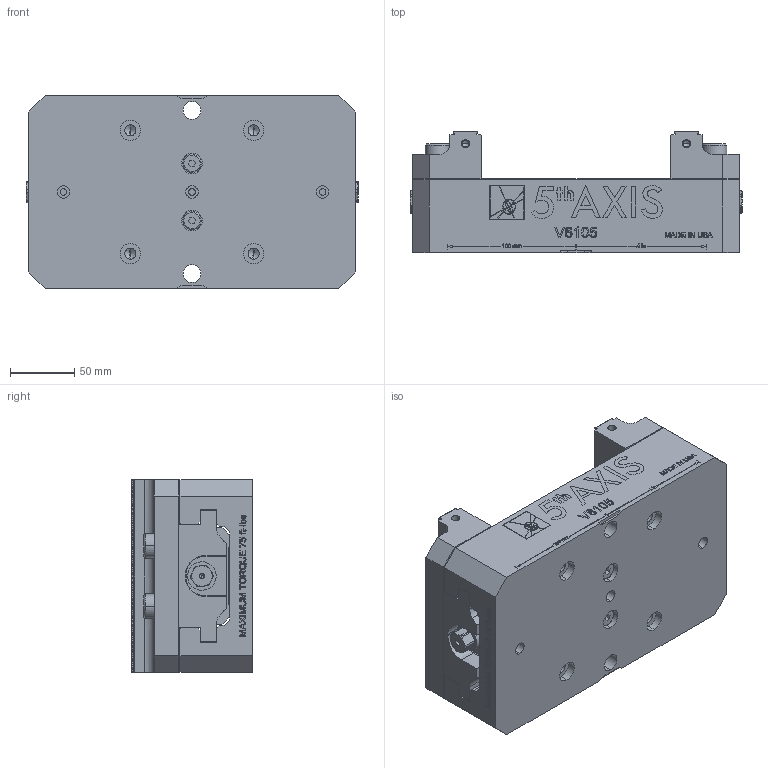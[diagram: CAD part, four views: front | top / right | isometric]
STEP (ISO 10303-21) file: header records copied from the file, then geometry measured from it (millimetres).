
FILE_DESCRIPTION (( 'STEP AP214' ), '1' );
FILE_NAME ('V6105.STEP', '2019-05-06T21:59:29', ( '' ), ( '' ), 'SwSTEP 2.0', 'SolidWorks 2018', '' );
FILE_SCHEMA (( 'AUTOMOTIVE_DESIGN' ));
Length unit declared in the file: inch
Products named in the file (14): V6105-5_V6105-5; V6105-2L_V6105-2L; V6105-4RK; Cup Point Set Screw_DEFAULT; V6105-4_V6105-4; V6105-6_V6105-6; V6105M-3_V6105M-3; V6105-1_V6105-1; V6105; M6X1.0; SB6V; V6105-2R_V6105-2L; LP375_NO THREADS; 72228_DEFAULT
Assembly tree (24 placements, depth 3):
  V6105
    V6105-1_V6105-1
    V6105-4RK
      V6105M-3_V6105M-3
      V6105-6_V6105-6  x2
      V6105-4_V6105-4
      Cup Point Set Screw_DEFAULT
    V6105-2L_V6105-2L
    V6105-5_V6105-5  x2
    72228_DEFAULT  x4
    LP375_NO THREADS  x4
    V6105-2R_V6105-2L
    SB6V  x2
    M6X1.0  x3
Bounding box: 258.32 x 94.09 x 149.86 mm (x, y, z)
Volume: 2005060 mm3; surface area: 314817 mm2
Topology: 23 solids, 23 shells, 3666 faces, 9557 edges, 6143 vertices
Faces by surface type: plane 1772, cylinder 944, bspline 537, cone 389, torus 24
Entity records: 127670 total; most frequent: CARTESIAN_POINT 46936, ORIENTED_EDGE 13706, DIRECTION 10353, EDGE_CURVE 6853, VERTEX_POINT 4466, LINE 4405, VECTOR 4405, AXIS2_PLACEMENT_3D 2974
